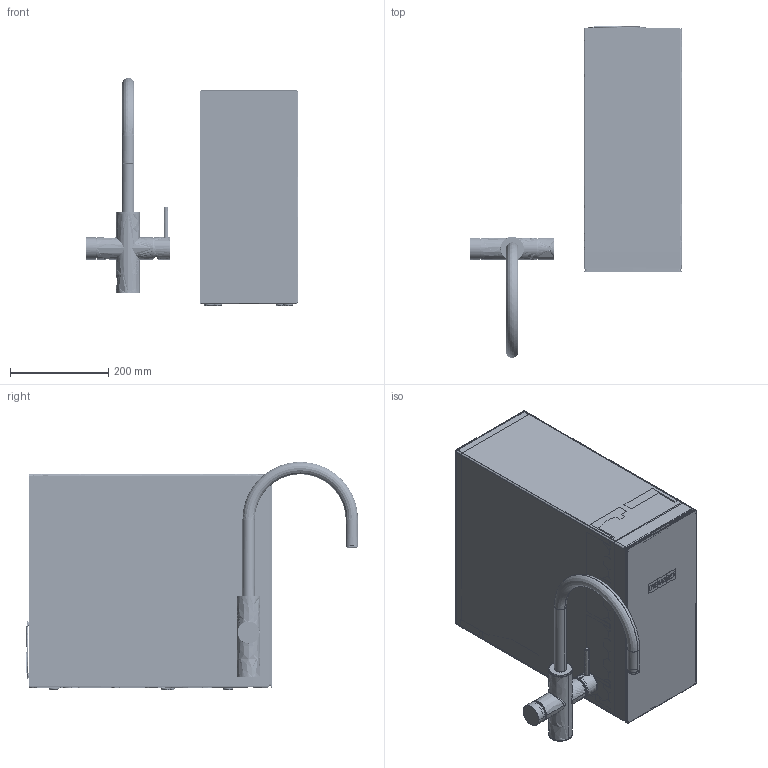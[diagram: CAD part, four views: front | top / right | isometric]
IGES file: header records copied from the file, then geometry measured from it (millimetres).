
Global section: file name: F:\_CONVERSIONE_CAD_2024_2025\_2024_GLB\Novelties_2024\Multifunctional-Taps\Caricati_GLB\160.0708.955 3D001_Multifunctional-Taps_Mythos-Water-Hub_Swivel\3D001_Multifunctional-Taps_Mythos-Water-Hub_Swivel.igs; native system: Rhinoceros ( Feb 11 2025 ); preprocessor: Trout Lake IGES 012 Feb 11 2025; date: 250908.123102; units: millimetre
Bounding box: 430.6 x 675.37 x 463.48 mm (x, y, z)
Surface area: 1741397.6 mm2 (no closed solid volume)
Topology: 0 solids, 0 shells, 4691 faces, 46313 edges, 46222 vertices
Faces by surface type: bspline 4691
